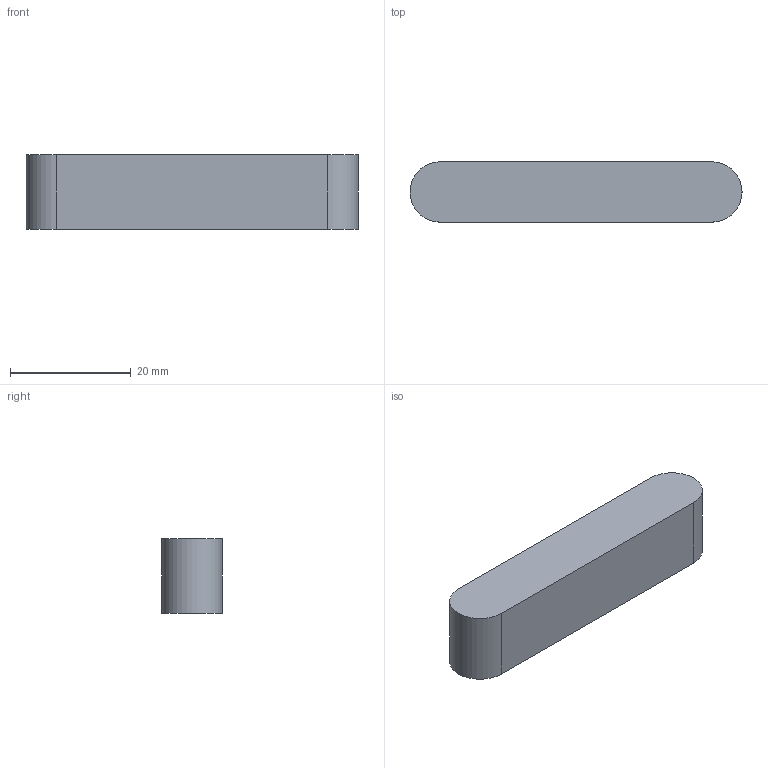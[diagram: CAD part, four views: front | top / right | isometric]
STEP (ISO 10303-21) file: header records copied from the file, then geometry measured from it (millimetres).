
FILE_DESCRIPTION(('Open CASCADE Model'),'2;1');
FILE_NAME('Open CASCADE Shape Model','2026-10-21T18:55:21',('Author'),( 'Open CASCADE'),'Open CASCADE STEP processor 8.0','build123d', 'Unknown');
FILE_SCHEMA(('AUTOMOTIVE_DESIGN { 1 0 10303 214 1 1 1 1 }'));
Length unit declared in the file: millimetre
Products named in the file (1): COMPOUND
Bounding box: 55 x 10 x 12.3 mm (x, y, z)
Volume: 6501 mm3; surface area: 2550.5 mm2
Topology: 1 solids, 1 shells, 6 faces, 12 edges, 8 vertices
Faces by surface type: plane 4, cylinder 2
Entity records: 338 total; most frequent: CARTESIAN_POINT 75, DIRECTION 50, LINE 28, VECTOR 28, ORIENTED_EDGE 24, PCURVE 24, DEFINITIONAL_REPRESENTATION 24, EDGE_CURVE 12
